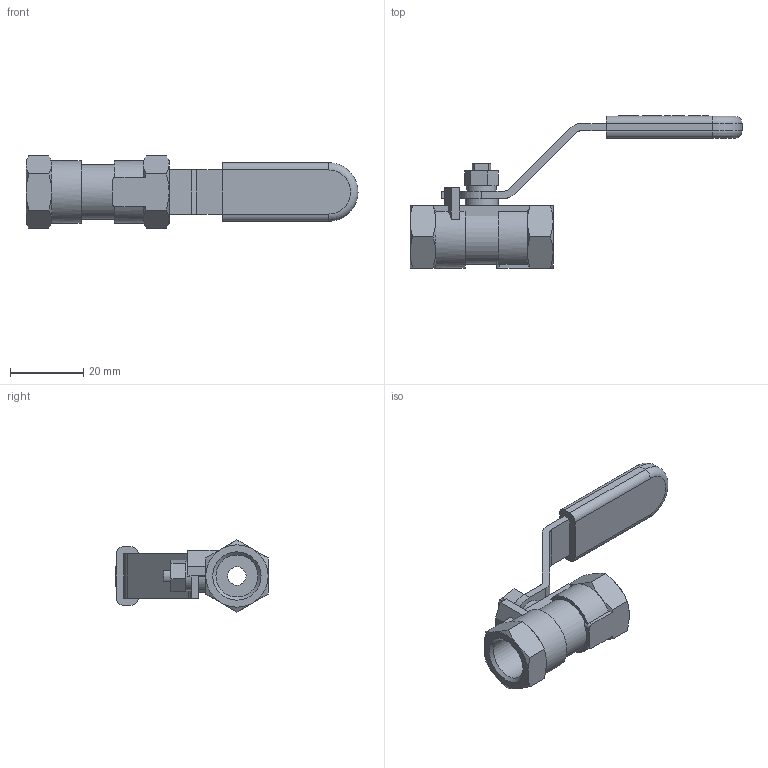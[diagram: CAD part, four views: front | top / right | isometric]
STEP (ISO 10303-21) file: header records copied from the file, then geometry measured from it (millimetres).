
FILE_DESCRIPTION(/* description */ ('Eriks item no: 12427433'),/* implementation_level */ '2;1');
FILE_NAME(/* name */ '7744-DN08-RB-1000PSI-BSP.stp',/* time_stamp */ '2024-02-16T08:18:22+01:00',/* author */ ('roger.thijssen'),/* organization */ (''),/* preprocessor_version */ 'ST-DEVELOPER v19.2',/* originating_system */ 'Autodesk Inventor 2024',/* authorisation */ '');
FILE_SCHEMA (('AUTOMOTIVE_DESIGN { 1 0 10303 214 3 1 1 }'));
Length unit declared in the file: millimetre
Products named in the file (1): Ball valve, 7744-DN08-RB-1000PSI-BSP
Bounding box: 90.5 x 41.5 x 19.63 mm (x, y, z)
Volume: 11144 mm3; surface area: 7045.2 mm2
Topology: 1 solids, 1 shells, 324 faces, 835 edges, 543 vertices
Faces by surface type: plane 244, cylinder 50, cone 26, bspline 2, torus 2
Full cylindrical faces by diameter (mm): 5 x1, 8 x1, 9 x1, 11.445 x2
Entity records: 10110 total; most frequent: CARTESIAN_POINT 1857, ORIENTED_EDGE 1670, DIRECTION 1558, EDGE_CURVE 835, LINE 642, VECTOR 642, VERTEX_POINT 543, AXIS2_PLACEMENT_3D 458
